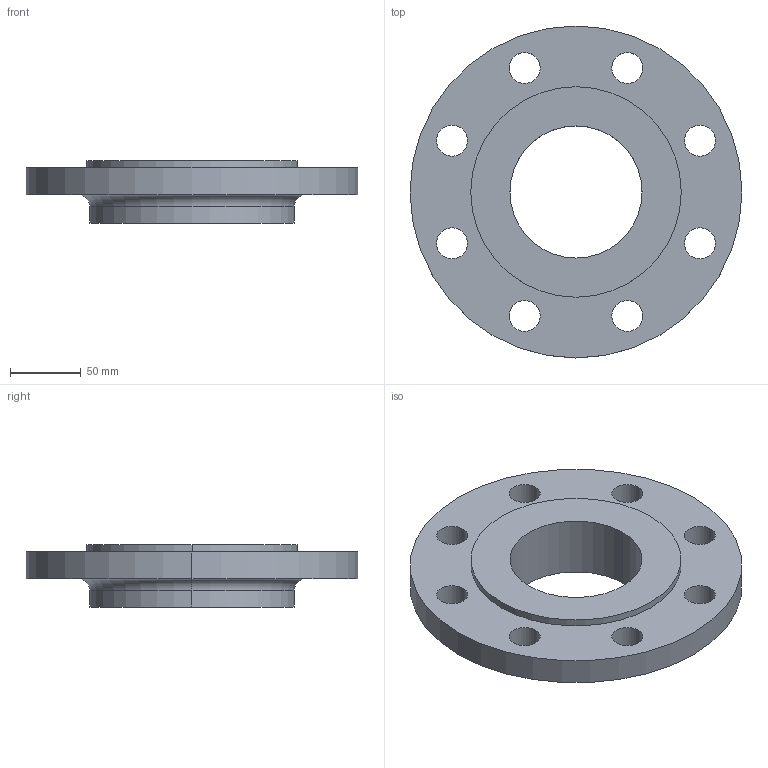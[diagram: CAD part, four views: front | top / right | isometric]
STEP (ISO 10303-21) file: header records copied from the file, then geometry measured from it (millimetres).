
FILE_DESCRIPTION (( 'STEP AP214' ), '1' );
FILE_NAME ('PN40 DN100 Type 13 - Type E Face.STEP', '2019-01-02T00:18:12', ( '' ), ( '' ), 'SwSTEP 2.0', 'SolidWorks 2019', '' );
FILE_SCHEMA (( 'AUTOMOTIVE_DESIGN' ));
Length unit declared in the file: millimetre
Products named in the file (1): PN40 DN100 Type 13 - Type E Face
Bounding box: 235 x 235 x 44 mm (x, y, z)
Volume: 888029.5 mm3; surface area: 114304.7 mm2
Topology: 1 solids, 1 shells, 30 faces, 76 edges, 50 vertices
Faces by surface type: cylinder 24, plane 4, torus 2
Entity records: 1006 total; most frequent: DIRECTION 190, CARTESIAN_POINT 157, ORIENTED_EDGE 152, AXIS2_PLACEMENT_3D 83, EDGE_CURVE 76, CIRCLE 52, EDGE_LOOP 50, VERTEX_POINT 50
